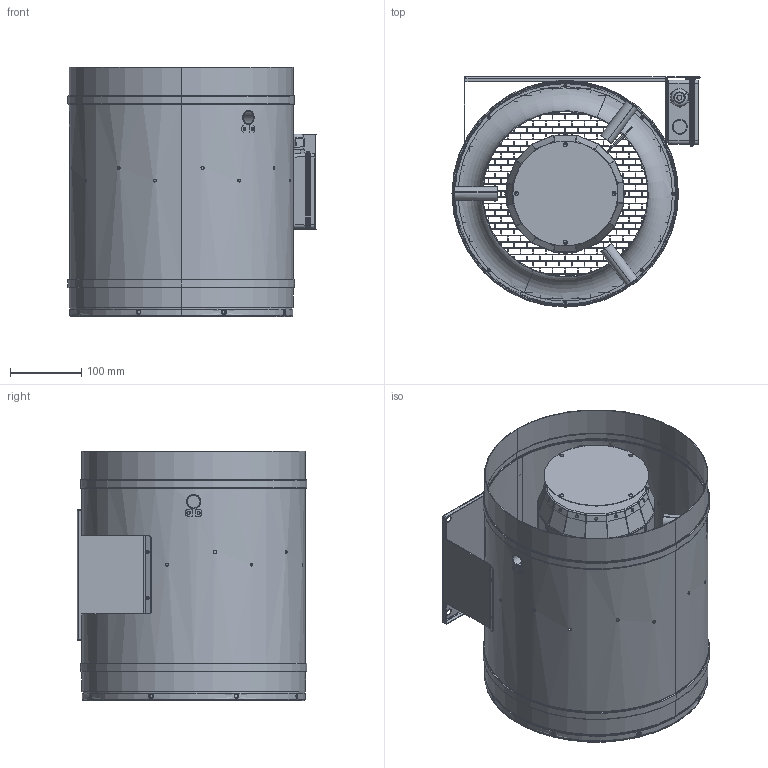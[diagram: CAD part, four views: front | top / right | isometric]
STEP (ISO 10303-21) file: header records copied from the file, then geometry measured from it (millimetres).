
FILE_DESCRIPTION (( 'STEP AP203' ), '1' );
FILE_NAME ('130320-00_EL315E210.STEP', '2014-06-02T12:27:31', ( '' ), ( '' ), 'SwSTEP 2.0', 'SolidWorks 2012', '' );
FILE_SCHEMA (( 'CONFIG_CONTROL_DESIGN' ));
Length unit declared in the file: millimetre
Products named in the file (1): 130320-00_EL315E210
Bounding box: 349.24 x 323.8 x 351.7 mm (x, y, z)
Surface area: 1281422.8 mm2 (no closed solid volume)
Topology: 0 solids, 48 shells, 1912 faces, 6954 edges, 5055 vertices
Faces by surface type: plane 1414, cylinder 341, bspline 97, cone 32, torus 28
Entity records: 84391 total; most frequent: CARTESIAN_POINT 27129, DIRECTION 10911, ORIENTED_EDGE 10102, EDGE_CURVE 6954, LINE 5549, VECTOR 5549, VERTEX_POINT 5055, AXIS2_PLACEMENT_3D 2681
